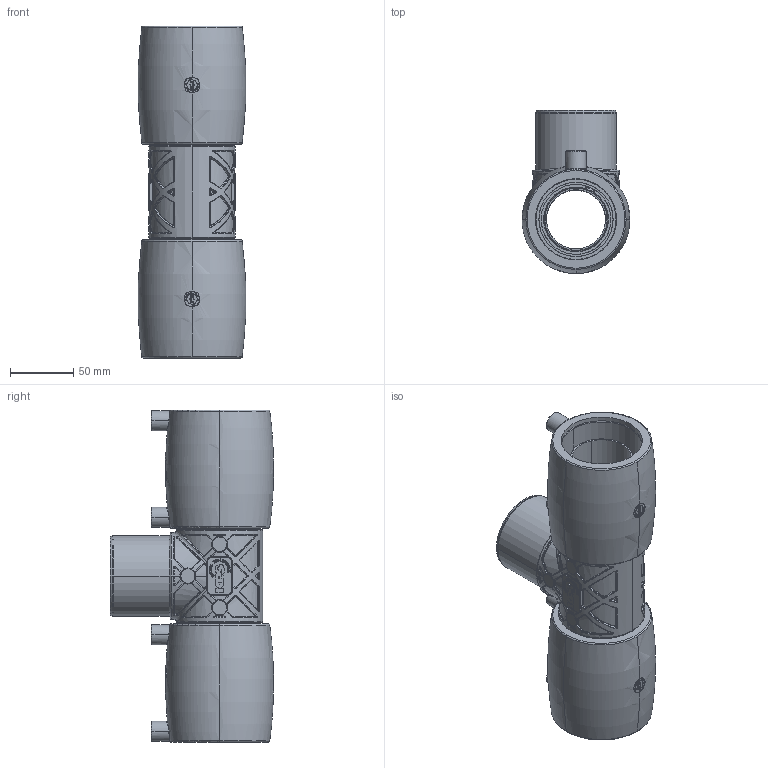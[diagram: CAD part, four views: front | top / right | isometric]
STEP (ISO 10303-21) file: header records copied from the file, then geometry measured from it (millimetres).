
FILE_DESCRIPTION (( 'STEP AP214' ), '1' );
FILE_NAME ('KP_28-63EC.STEP', '2012-12-14T10:43:16', ( '' ), ( '' ), 'SwSTEP 2.0', 'SolidWorks 2012', '' );
FILE_SCHEMA (( 'AUTOMOTIVE_DESIGN' ));
Length unit declared in the file: millimetre
Products named in the file (1): KP_28-63EC
Bounding box: 84.76 x 128.44 x 261.5 mm (x, y, z)
Volume: 724638.3 mm3; surface area: 188363.7 mm2
Topology: 3 solids, 15 shells, 4755 faces, 12642 edges, 8018 vertices
Faces by surface type: plane 2989, bspline 712, cylinder 488, torus 246, sphere 240, cone 80
Entity records: 167638 total; most frequent: CARTESIAN_POINT 53617, ORIENTED_EDGE 25012, DIRECTION 20422, EDGE_CURVE 12506, LINE 8288, VECTOR 8288, VERTEX_POINT 7968, AXIS2_PLACEMENT_3D 6067
